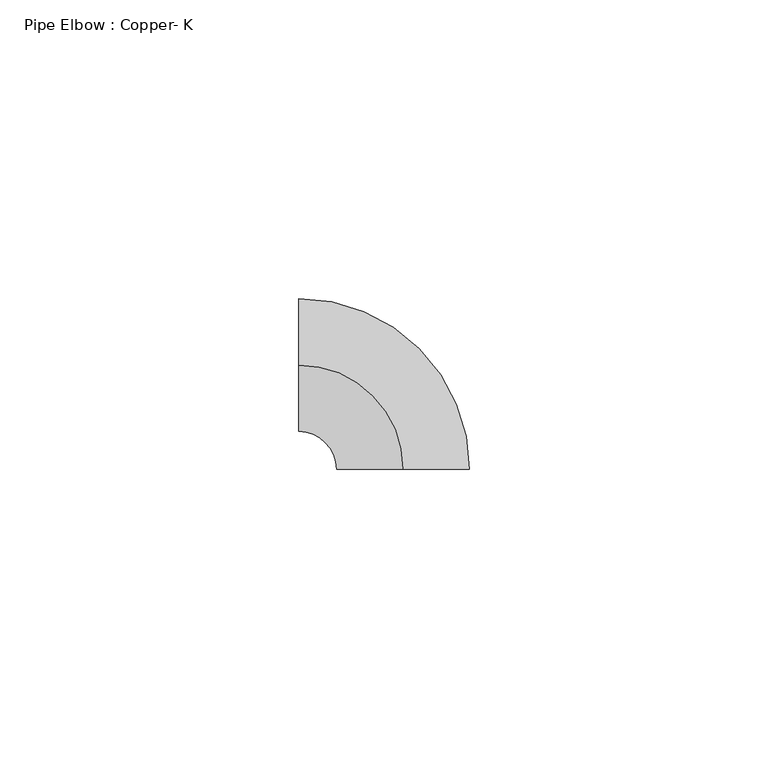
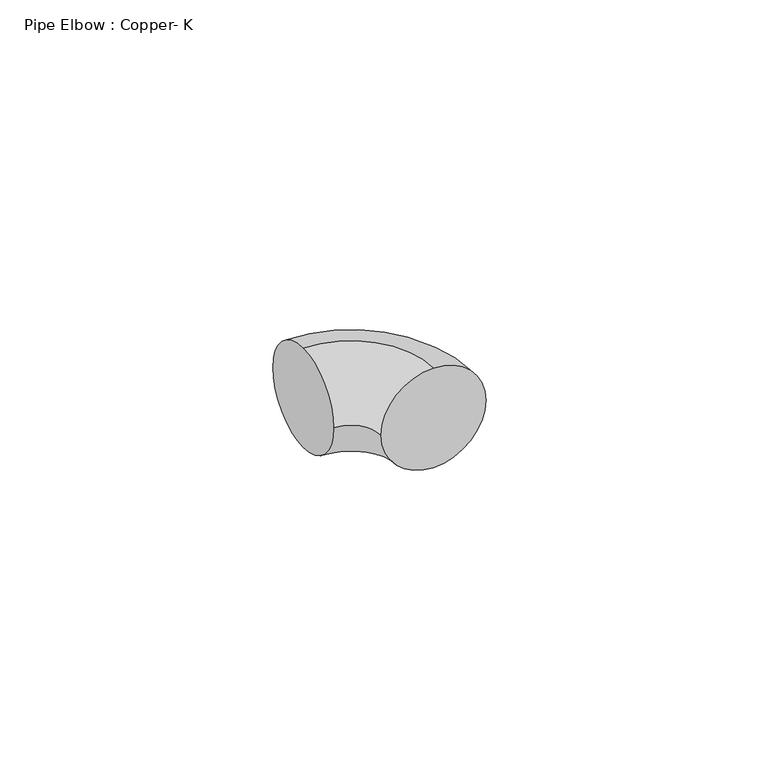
"""IFC4 building model written with IfcOpenShell, lengths in millimetres: pipe fitting geometry, Pipe Elbow : Copper- K."""

from ifc_helpers import new_model, si_unit, point, frame, origin, place, context, project, spatial, circle_curve, ellipse_curve, trimmed, source, transform, mapped, element, save
from ifc_brep_helpers import plane_surface, revolved_surface, advanced_brep


def pipe_elbow_copper_k_69a8f9be(model_context):
    return source(origin(), model_context, "Body", "AdvancedBrep", [
        advanced_brep(
        [(-17.4625, 0.0, 11.1125), (-17.4625, 11.1125, 0.0), (-17.4625, 0.0, -11.1125), (-17.4625, -11.1125, 0.0), (0.0, -17.4625, 11.1125), (-11.1125, -17.4625, 0.0), (0.0, -17.4625, -11.1125), (11.1125, -17.4625, 0.0)],
        [
            (0, 1, circle_curve(frame((-17.4625, 0.0, 0.0), z_axis=(-1.0, 0.0, 0.0), x_axis=(0.0, -1.0, 0.0)), 11.1125)),
            (1, 2, circle_curve(frame((-17.4625, 0.0, 0.0), z_axis=(-1.0, 0.0, 0.0), x_axis=(0.0, -1.0, 0.0)), 11.1125)),
            (2, 3, circle_curve(frame((-17.4625, 0.0, 0.0), z_axis=(-1.0, 0.0, 0.0), x_axis=(0.0, -1.0, 0.0)), 11.1125)),
            (3, 0, circle_curve(frame((-17.4625, 0.0, 0.0), z_axis=(-1.0, 0.0, 0.0), x_axis=(0.0, -1.0, 0.0)), 11.1125)),
            (4, 5, circle_curve(frame((0.0, -17.4625, 0.0), z_axis=(0.0, -1.0, 0.0), x_axis=(-1.0, 0.0, 0.0)), 11.1125)),
            (5, 6, circle_curve(frame((0.0, -17.4625, 0.0), z_axis=(0.0, -1.0, 0.0), x_axis=(-1.0, 0.0, 0.0)), 11.1125)),
            (6, 7, circle_curve(frame((0.0, -17.4625, 0.0), z_axis=(0.0, -1.0, 0.0), x_axis=(-1.0, 0.0, 0.0)), 11.1125)),
            (7, 4, circle_curve(frame((0.0, -17.4625, 0.0), z_axis=(0.0, -1.0, 0.0), x_axis=(-1.0, 0.0, 0.0)), 11.1125)),
            (4, 0, circle_curve(frame((-17.4625, -17.4625, 11.1125), z_axis=(0.0, 0.0, 1.0), x_axis=(0.0, 1.0, 0.0)), 17.4625)),
            (3, 5, circle_curve(frame((-17.4625, -17.4625, 0.0), z_axis=(0.0, 0.0, -1.0), x_axis=(0.0, 1.0, 0.0)), 6.35)),
            (2, 6, circle_curve(frame((-17.4625, -17.4625, -11.1125), z_axis=(0.0, 0.0, -1.0), x_axis=(0.0, 1.0, 0.0)), 17.4625)),
            (1, 7, circle_curve(frame((-17.4625, -17.4625, 0.0), z_axis=(0.0, 0.0, -1.0), x_axis=(0.0, 1.0, 0.0)), 28.575)),
        ],
        [
            plane_surface(frame((-17.4625, 0.0, 0.0), z_axis=(-1.0, 0.0, 0.0), x_axis=(0.0, 0.0, 1.0))),
            plane_surface(frame((0.0, -17.4625, 0.0), z_axis=(0.0, -1.0, 0.0), x_axis=(0.0, 0.0, 1.0))),
            revolved_surface(trimmed(ellipse_curve(frame((-17.4625, 0.0, 0.0), z_axis=(1.0, 0.0, 0.0), x_axis=(0.0, -1.0, 0.0)), 11.1125, 11.1125), [point((-17.4625, 0.0, 11.1125))], [point((-17.4625, -11.1125, 0.0))], True, "CARTESIAN"), (-17.4625, -17.4625, 0.0), (0.0, 0.0, 1.0)),
            revolved_surface(trimmed(ellipse_curve(frame((-17.4625, 0.0, 0.0), z_axis=(1.0, 0.0, 0.0), x_axis=(0.0, -1.0, 0.0)), 11.1125, 11.1125), [point((-17.4625, -11.1125, 0.0))], [point((-17.4625, 0.0, -11.1125))], True, "CARTESIAN"), (-17.4625, -17.4625, 0.0), (0.0, 0.0, 1.0)),
            revolved_surface(trimmed(ellipse_curve(frame((-17.4625, 0.0, 0.0), z_axis=(1.0, 0.0, 0.0), x_axis=(0.0, -1.0, 0.0)), 11.1125, 11.1125), [point((-17.4625, 0.0, -11.1125))], [point((-17.4625, 11.1125, 0.0))], True, "CARTESIAN"), (-17.4625, -17.4625, 0.0), (0.0, 0.0, 1.0)),
            revolved_surface(trimmed(ellipse_curve(frame((-17.4625, 0.0, 0.0), z_axis=(1.0, 0.0, 0.0), x_axis=(0.0, -1.0, 0.0)), 11.1125, 11.1125), [point((-17.4625, 11.1125, 0.0))], [point((-17.4625, 0.0, 11.1125))], True, "CARTESIAN"), (-17.4625, -17.4625, 0.0), (0.0, 0.0, 1.0)),
        ],
        [
            (0, [[1, 2, 3, 4]]),
            (1, [[5, 6, 7, 8]]),
            (2, [[-5, 9, -4, 10]]),
            (3, [[-6, -10, -3, 11]]),
            (4, [[-7, -11, -2, 12]]),
            (5, [[-8, -12, -1, -9]]),
        ],
    ),
        advanced_brep(
        [(-17.4625, 0.0, 11.1125), (-17.4625, 11.1125, 0.0), (-17.4625, 0.0, -11.1125), (-17.4625, -11.1125, 0.0), (0.0, -17.4625, 11.1125), (-11.1125, -17.4625, 0.0), (0.0, -17.4625, -11.1125), (11.1125, -17.4625, 0.0)],
        [
            (0, 1, circle_curve(frame((-17.4625, 0.0, 0.0), z_axis=(-1.0, 0.0, 0.0), x_axis=(0.0, -1.0, 0.0)), 11.1125)),
            (1, 2, circle_curve(frame((-17.4625, 0.0, 0.0), z_axis=(-1.0, 0.0, 0.0), x_axis=(0.0, -1.0, 0.0)), 11.1125)),
            (2, 3, circle_curve(frame((-17.4625, 0.0, 0.0), z_axis=(-1.0, 0.0, 0.0), x_axis=(0.0, -1.0, 0.0)), 11.1125)),
            (3, 0, circle_curve(frame((-17.4625, 0.0, 0.0), z_axis=(-1.0, 0.0, 0.0), x_axis=(0.0, -1.0, 0.0)), 11.1125)),
            (4, 5, circle_curve(frame((0.0, -17.4625, 0.0), z_axis=(0.0, -1.0, 0.0), x_axis=(-1.0, 0.0, 0.0)), 11.1125)),
            (5, 6, circle_curve(frame((0.0, -17.4625, 0.0), z_axis=(0.0, -1.0, 0.0), x_axis=(-1.0, 0.0, 0.0)), 11.1125)),
            (6, 7, circle_curve(frame((0.0, -17.4625, 0.0), z_axis=(0.0, -1.0, 0.0), x_axis=(-1.0, 0.0, 0.0)), 11.1125)),
            (7, 4, circle_curve(frame((0.0, -17.4625, 0.0), z_axis=(0.0, -1.0, 0.0), x_axis=(-1.0, 0.0, 0.0)), 11.1125)),
            (4, 0, circle_curve(frame((-17.4625, -17.4625, 11.1125), z_axis=(0.0, 0.0, 1.0), x_axis=(0.0, 1.0, 0.0)), 17.4625)),
            (3, 5, circle_curve(frame((-17.4625, -17.4625, 0.0), z_axis=(0.0, 0.0, -1.0), x_axis=(0.0, 1.0, 0.0)), 6.35)),
            (2, 6, circle_curve(frame((-17.4625, -17.4625, -11.1125), z_axis=(0.0, 0.0, -1.0), x_axis=(0.0, 1.0, 0.0)), 17.4625)),
            (1, 7, circle_curve(frame((-17.4625, -17.4625, 0.0), z_axis=(0.0, 0.0, -1.0), x_axis=(0.0, 1.0, 0.0)), 28.575)),
        ],
        [
            plane_surface(frame((-17.4625, 0.0, 0.0), z_axis=(-1.0, 0.0, 0.0), x_axis=(0.0, 0.0, 1.0))),
            plane_surface(frame((0.0, -17.4625, 0.0), z_axis=(0.0, -1.0, 0.0), x_axis=(0.0, 0.0, 1.0))),
            revolved_surface(trimmed(ellipse_curve(frame((-17.4625, 0.0, 0.0), z_axis=(1.0, 0.0, 0.0), x_axis=(0.0, -1.0, 0.0)), 11.1125, 11.1125), [point((-17.4625, 0.0, 11.1125))], [point((-17.4625, -11.1125, 0.0))], True, "CARTESIAN"), (-17.4625, -17.4625, 0.0), (0.0, 0.0, 1.0)),
            revolved_surface(trimmed(ellipse_curve(frame((-17.4625, 0.0, 0.0), z_axis=(1.0, 0.0, 0.0), x_axis=(0.0, -1.0, 0.0)), 11.1125, 11.1125), [point((-17.4625, -11.1125, 0.0))], [point((-17.4625, 0.0, -11.1125))], True, "CARTESIAN"), (-17.4625, -17.4625, 0.0), (0.0, 0.0, 1.0)),
            revolved_surface(trimmed(ellipse_curve(frame((-17.4625, 0.0, 0.0), z_axis=(1.0, 0.0, 0.0), x_axis=(0.0, -1.0, 0.0)), 11.1125, 11.1125), [point((-17.4625, 0.0, -11.1125))], [point((-17.4625, 11.1125, 0.0))], True, "CARTESIAN"), (-17.4625, -17.4625, 0.0), (0.0, 0.0, 1.0)),
            revolved_surface(trimmed(ellipse_curve(frame((-17.4625, 0.0, 0.0), z_axis=(1.0, 0.0, 0.0), x_axis=(0.0, -1.0, 0.0)), 11.1125, 11.1125), [point((-17.4625, 11.1125, 0.0))], [point((-17.4625, 0.0, 11.1125))], True, "CARTESIAN"), (-17.4625, -17.4625, 0.0), (0.0, 0.0, 1.0)),
        ],
        [
            (0, [[1, 2, 3, 4]]),
            (1, [[5, 6, 7, 8]]),
            (2, [[-5, 9, -4, 10]]),
            (3, [[-6, -10, -3, 11]]),
            (4, [[-7, -11, -2, 12]]),
            (5, [[-8, -12, -1, -9]]),
        ],
    ),
    ])


if __name__ == "__main__":
    model = new_model("IFC4")
    model_context = context("Model", 3, world=origin())
    ifc_project = project(units=[si_unit("LENGTHUNIT", "METRE", prefix="MILLI")], contexts=[model_context])
    site = spatial("IfcSite", under=ifc_project)
    building = spatial("IfcBuilding", under=site)
    placement = place(None, origin())
    pipe_elbow_copper_k_shape = pipe_elbow_copper_k_69a8f9be(model_context)
    element("IfcPipeFitting", 1, ObjectType="Pipe Elbow : Copper- K", at=placement, inside=building, context=model_context, shape_type="MappedRepresentation", body=[
        mapped(pipe_elbow_copper_k_shape, transform((0.0, 0.0, 0.0), x_axis=(1.0, 0.0, 0.0), y_axis=(0.0, 1.0, 0.0), z_axis=(0.0, 0.0, 1.0))),
    ])
    save(model, "model.ifc")
